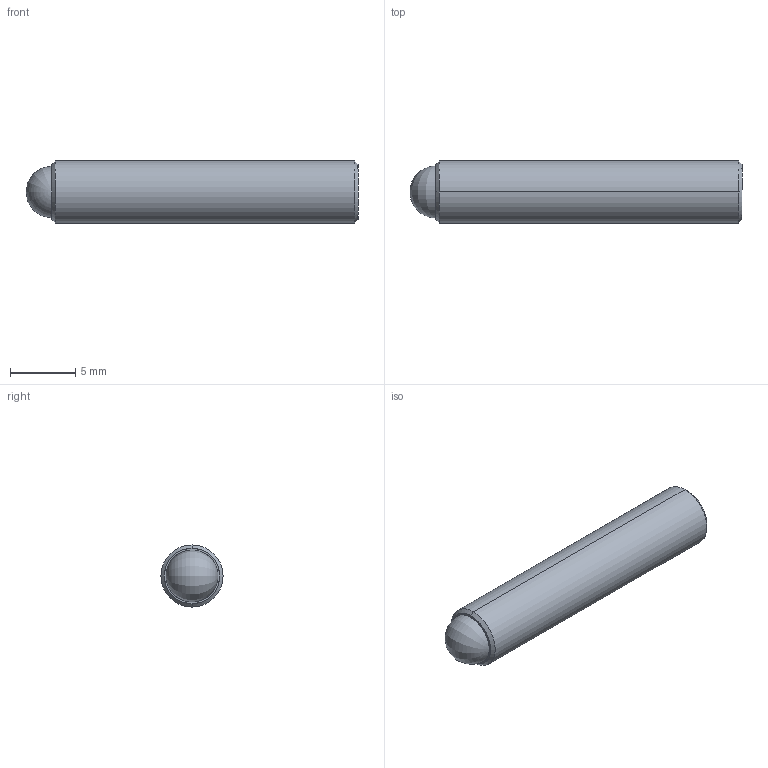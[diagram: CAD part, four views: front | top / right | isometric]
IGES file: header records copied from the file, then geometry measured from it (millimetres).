
Start section: SolidWorks IGES file using analytic representation for surfaces
Global section: file name: C:\Users\workpc\Desktop\KMA Solidworks\TS187-100-1000-AA.IGS; native system: SolidWorks 2013; preprocessor: SolidWorks 2013; author: workpc; date: 130211.120923; units: inch
Bounding box: 25.4 x 4.75 x 4.75 mm (x, y, z)
Surface area: 473.3 mm2 (no closed solid volume)
Topology: 0 solids, 0 shells, 20 faces, 204 edges, 200 vertices
Faces by surface type: revolution 10, bspline 10
